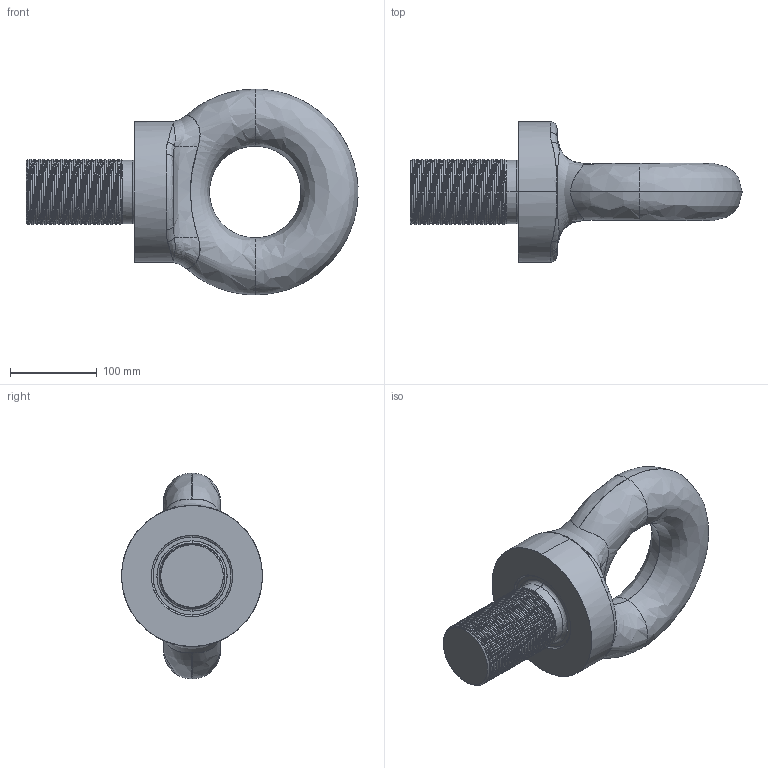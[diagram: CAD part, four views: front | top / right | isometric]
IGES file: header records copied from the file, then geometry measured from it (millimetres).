
Start section: SolidWorks IGES file using analytic representation for surfaces
Global section: file name: C:\Users\Brenton\Documents\Townley\Eye Bolts\Imperial\EBU3000\EBU3000.IGS; native system: SolidWorks 2012; preprocessor: SolidWorks 2012; author: Brenton; date: 140307.134143; units: millimetre
Bounding box: 383.82 x 163 x 238 mm (x, y, z)
Surface area: 191792.2 mm2 (no closed solid volume)
Topology: 0 solids, 0 shells, 86 faces, 3075 edges, 3067 vertices
Faces by surface type: revolution 54, bspline 32
